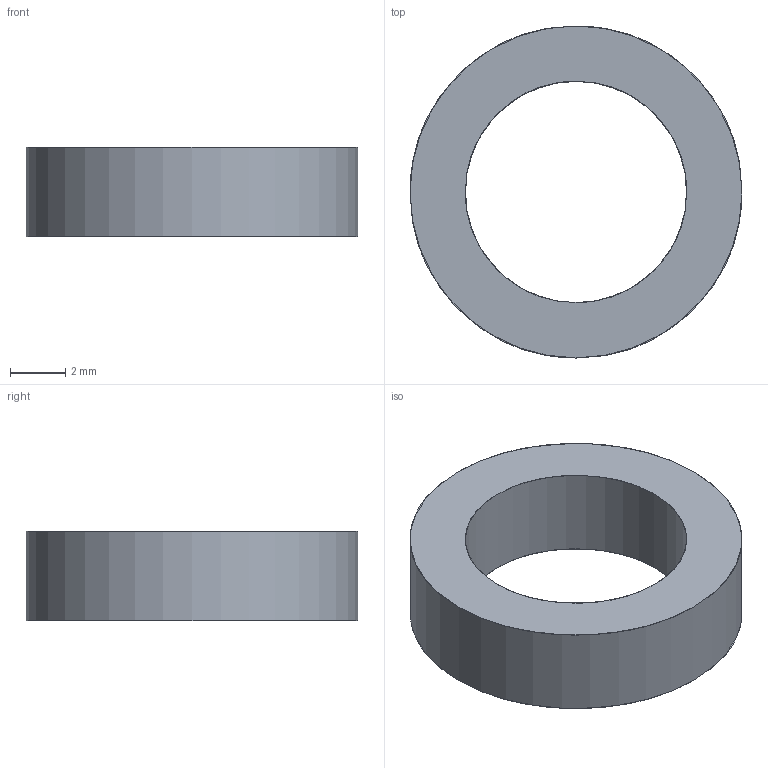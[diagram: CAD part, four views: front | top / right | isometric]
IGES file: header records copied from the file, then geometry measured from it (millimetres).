
Global section: file name: C:\Users\gehrichcr\Documents\1 Drive Backup\Practice\Inspire\V1.5\IGES\Spacer for V1.3 Bearing Holders.igs; native system: NX V8.5; preprocessor: SIEMENS PLM Software NX 8.5; date: 20150608.093752; units: millimetre
Bounding box: 12 x 12 x 3.25 mm (x, y, z)
Surface area: 330.5 mm2 (no closed solid volume)
Topology: 0 solids, 0 shells, 4 faces, 44 edges, 44 vertices
Faces by surface type: bspline 4
